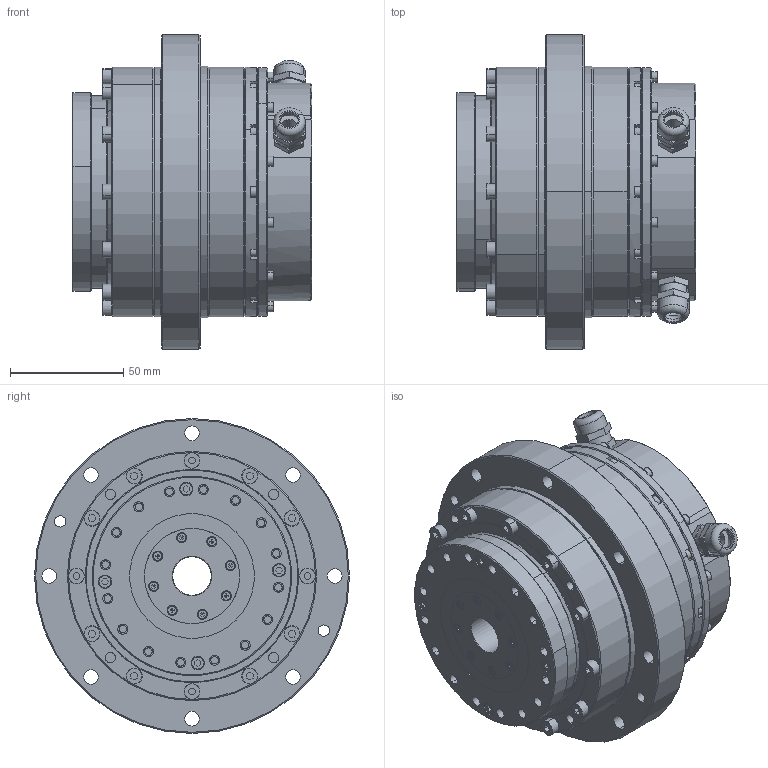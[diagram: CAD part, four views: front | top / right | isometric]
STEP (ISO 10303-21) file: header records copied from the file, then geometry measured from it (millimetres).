
FILE_DESCRIPTION (( 'STEP AP203' ), '1' );
FILE_NAME ('KAH-25CM3NA 总装配图（带法兰侧面出线）.STEP', '2021-03-05T01:18:05', ( '' ), ( '' ), 'SwSTEP 2.0', 'SolidWorks 2020', '' );
FILE_SCHEMA (( 'CONFIG_CONTROL_DESIGN' ));
Length unit declared in the file: millimetre
Products named in the file (1): KAH-25CM3NA 总装配图（带法兰侧面出线）
Bounding box: 105.9 x 139 x 139 mm (x, y, z)
Volume: 437461.8 mm3; surface area: 223482.3 mm2
Topology: 73 solids, 73 shells, 2519 faces, 5942 edges, 3659 vertices
Faces by surface type: cylinder 865, plane 832, cone 421, torus 247, sphere 112, bspline 42
Entity records: 77029 total; most frequent: CARTESIAN_POINT 17347, DIRECTION 13252, ORIENTED_EDGE 11724, EDGE_CURVE 5862, AXIS2_PLACEMENT_3D 5348, VERTEX_POINT 3659, EDGE_LOOP 3109, CIRCLE 2870
